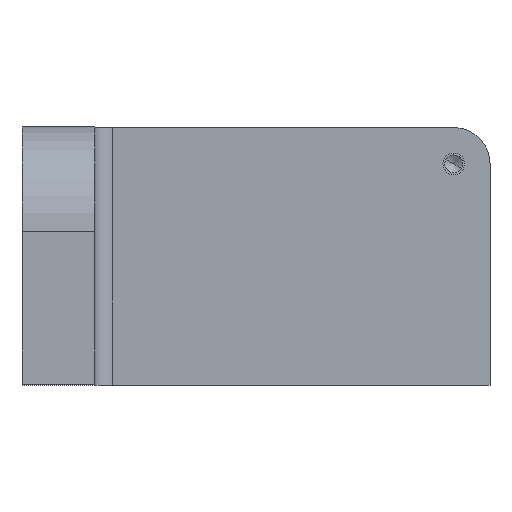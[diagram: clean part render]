
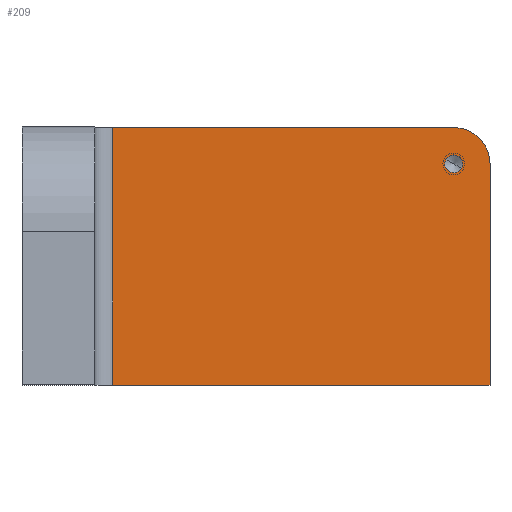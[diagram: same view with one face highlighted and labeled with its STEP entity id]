
A CAD part, top view. The second image highlights one B-rep face of the part: STEP entity #209.
In plain terms, the highlighted planar face has unit normal (0, 0, 1).
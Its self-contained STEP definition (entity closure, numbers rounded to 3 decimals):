
#144=CARTESIAN_POINT('Axis2P3D Location',(0.,0.,20.)) ;
#149=CARTESIAN_POINT('Line Origine',(77.,0.,20.)) ;
#153=CARTESIAN_POINT('Vertex',(25.,0.,20.)) ;
#155=CARTESIAN_POINT('Vertex',(129.,0.,20.)) ;
#158=CARTESIAN_POINT('Line Origine',(129.,30.5,20.)) ;
#162=CARTESIAN_POINT('Vertex',(129.,61.,20.)) ;
#165=CARTESIAN_POINT('Axis2P3D Location',(119.,61.,20.)) ;
#169=CARTESIAN_POINT('Vertex',(119.,71.,20.)) ;
#172=CARTESIAN_POINT('Line Origine',(72.,71.,20.)) ;
#176=CARTESIAN_POINT('Vertex',(25.,71.,20.)) ;
#179=CARTESIAN_POINT('Line Origine',(25.,35.5,20.)) ;
#191=CARTESIAN_POINT('Axis2P3D Location',(119.,61.,20.)) ;
#195=CARTESIAN_POINT('Vertex',(116.842,62.179,20.)) ;
#197=CARTESIAN_POINT('Vertex',(121.158,59.821,20.)) ;
#200=CARTESIAN_POINT('Axis2P3D Location',(119.,61.,20.)) ;
#145=DIRECTION('Axis2P3D Direction',(0.,0.,1.)) ;
#146=DIRECTION('Axis2P3D XDirection',(1.,0.,0.)) ;
#150=DIRECTION('Vector Direction',(1.,0.,0.)) ;
#159=DIRECTION('Vector Direction',(0.,1.,0.)) ;
#166=DIRECTION('Axis2P3D Direction',(0.,0.,1.)) ;
#173=DIRECTION('Vector Direction',(-1.,0.,0.)) ;
#180=DIRECTION('Vector Direction',(0.,-1.,0.)) ;
#192=DIRECTION('Axis2P3D Direction',(0.,0.,1.)) ;
#201=DIRECTION('Axis2P3D Direction',(0.,0.,1.)) ;
#147=AXIS2_PLACEMENT_3D('Plane Axis2P3D',#144,#145,#146) ;
#167=AXIS2_PLACEMENT_3D('Circle Axis2P3D',#165,#166,$) ;
#193=AXIS2_PLACEMENT_3D('Circle Axis2P3D',#191,#192,$) ;
#202=AXIS2_PLACEMENT_3D('Circle Axis2P3D',#200,#201,$) ;
#185=ORIENTED_EDGE('',*,*,#157,.T.) ;
#186=ORIENTED_EDGE('',*,*,#164,.T.) ;
#187=ORIENTED_EDGE('',*,*,#171,.T.) ;
#188=ORIENTED_EDGE('',*,*,#178,.T.) ;
#189=ORIENTED_EDGE('',*,*,#183,.F.) ;
#206=ORIENTED_EDGE('',*,*,#199,.F.) ;
#207=ORIENTED_EDGE('',*,*,#204,.F.) ;
#208=FACE_BOUND('',#205,.T.) ;
#151=VECTOR('Line Direction',#150,1.) ;
#160=VECTOR('Line Direction',#159,1.) ;
#174=VECTOR('Line Direction',#173,1.) ;
#181=VECTOR('Line Direction',#180,1.) ;
#209=ADVANCED_FACE('PartBody',(#190,#208),#148,.T.) ;
#168=CIRCLE('generated circle',#167,10.) ;
#194=CIRCLE('generated circle',#193,2.459) ;
#203=CIRCLE('generated circle',#202,2.459) ;
#157=EDGE_CURVE('',#154,#156,#152,.T.) ;
#164=EDGE_CURVE('',#156,#163,#161,.T.) ;
#171=EDGE_CURVE('',#163,#170,#168,.T.) ;
#178=EDGE_CURVE('',#170,#177,#175,.T.) ;
#183=EDGE_CURVE('',#154,#177,#182,.F.) ;
#199=EDGE_CURVE('',#196,#198,#194,.T.) ;
#204=EDGE_CURVE('',#198,#196,#203,.T.) ;
#184=EDGE_LOOP('',(#185,#186,#187,#188,#189)) ;
#205=EDGE_LOOP('',(#206,#207)) ;
#190=FACE_OUTER_BOUND('',#184,.T.) ;
#152=LINE('Line',#149,#151) ;
#161=LINE('Line',#158,#160) ;
#175=LINE('Line',#172,#174) ;
#182=LINE('Line',#179,#181) ;
#148=PLANE('',#147) ;
#154=VERTEX_POINT('',#153) ;
#156=VERTEX_POINT('',#155) ;
#163=VERTEX_POINT('',#162) ;
#170=VERTEX_POINT('',#169) ;
#177=VERTEX_POINT('',#176) ;
#196=VERTEX_POINT('',#195) ;
#198=VERTEX_POINT('',#197) ;
